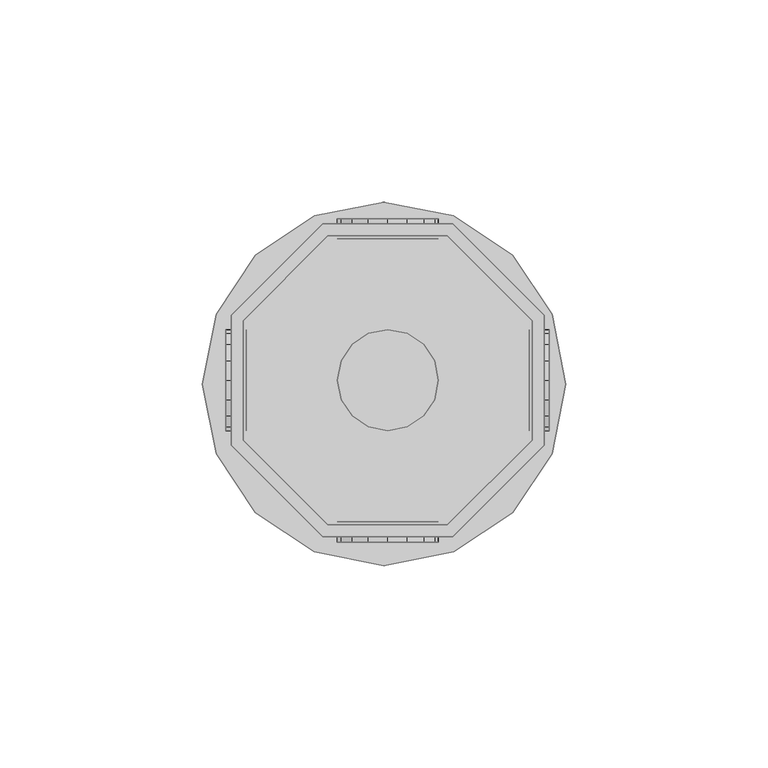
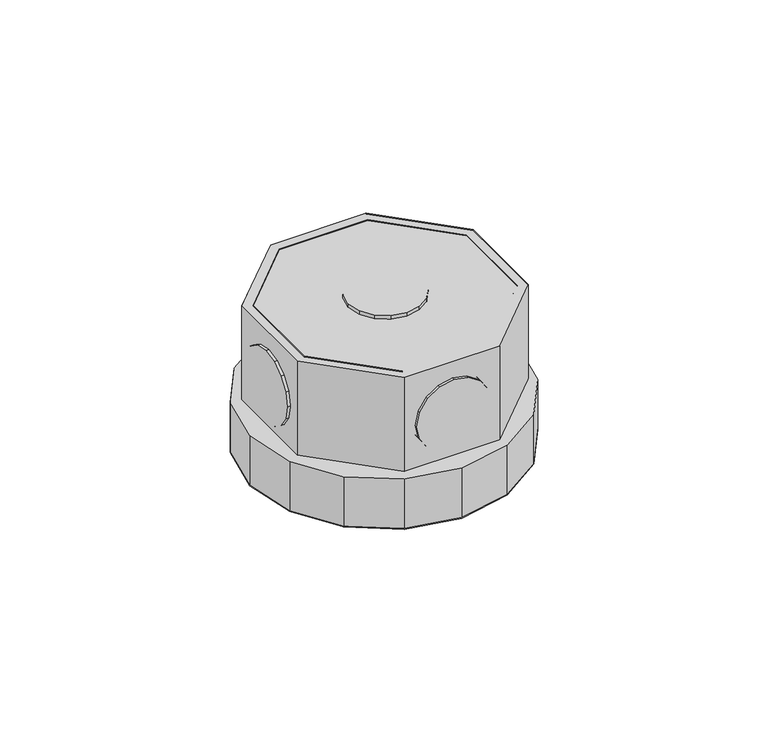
"""IFC4 building model written with IfcOpenShell, lengths in millimetres: light fixture geometry,  213122 :  213122."""

from ifc_helpers import new_model, si_unit, origin, place, context, project, spatial, triangles, source, transform, mapped, element, save


def light_fixture_f5dd555e(model_context):
    return source(origin(), model_context, "Body", "Tessellation", [
        triangles([(2380.9000214, 10419.6000458, 2924.5999741), (2380.9000214, 10449.2005646, 2975.400071), (2380.9000214, 10449.2005646, 2924.5999741), (2380.9000214, 10419.6000458, 2975.400071), (2306.4000629, 10418.400119, 2924.5999741), (2306.4000629, 10450.5004852, 2975.400071), (2306.4000629, 10450.5004852, 2924.5999741), (2306.4000629, 10418.400119, 2975.400071), (2359.899995, 10470.2004456, 2975.400071), (2359.899995, 10470.2004456, 2924.5999741), (2329.0999855, 10395.7003418, 2924.5999741), (2329.0999855, 10395.7003418, 2975.400071), (2330.3000576, 10470.2004456, 2975.400071), (2330.3000576, 10470.2004456, 2924.5999741), (2361.200061, 10395.7003418, 2924.5999741), (2361.200061, 10395.7003418, 2975.400071), (2309.4000252, 10449.2005646, 2975.400071), (2309.4000252, 10449.2005646, 2924.5999741), (2383.8999836, 10418.400119, 2924.5999741), (2383.8999836, 10418.400119, 2975.400071), (2309.4000252, 10419.6000458, 2924.5999741), (2309.4000252, 10419.6000458, 2975.400071), (2383.8999836, 10450.5004852, 2975.400071), (2383.8999836, 10450.5004852, 2924.5999741), (2330.3000576, 10398.7001587, 2924.5999741), (2330.3000576, 10398.7001587, 2975.400071), (2361.200061, 10473.2002625, 2975.400071), (2361.200061, 10473.2002625, 2924.5999741), (2329.0999855, 10473.2002625, 2975.400071), (2359.899995, 10398.7001587, 2975.400071), (2359.899995, 10398.7001587, 2924.5999741), (2329.0999855, 10473.2002625, 2924.5999741), (2330.3000576, 10470.2004456, 2972.3999634), (2309.4000252, 10449.2005646, 2972.3999634), (2309.4000252, 10419.6000458, 2972.3999634), (2330.3000576, 10398.7001587, 2972.3999634), (2359.899995, 10398.7001587, 2972.3999634), (2380.9000214, 10419.6000458, 2972.3999634), (2380.9000214, 10449.2005646, 2972.3999634), (2359.899995, 10470.2004456, 2972.3999634), (2361.200061, 10473.2002625, 2942.4000504), (2383.8999836, 10450.5004852, 2942.4000504), (2383.8999836, 10418.400119, 2942.4000504), (2361.200061, 10395.7003418, 2942.4000504), (2329.0999855, 10395.7003418, 2942.4000504), (2306.4000629, 10418.400119, 2942.4000504), (2306.4000629, 10450.5004852, 2942.4000504), (2329.0999855, 10473.2002625, 2942.4000504), (2302.6999981, 10450.8004669, 2942.4000504), (2326.9999683, 10475.1001465, 2942.4000504), (2312.3999874, 10465.3995758, 2942.4000504), (2344.1999359, 10478.499939, 2942.4000504), (2361.5000427, 10475.1001465, 2942.4000504), (2376.1000237, 10465.3995758, 2942.4000504), (2385.800013, 10450.8004669, 2942.4000504), (2389.1999508, 10433.5003601, 2942.4000504), (2385.800013, 10416.3002472, 2942.4000504), (2361.5000427, 10392.0005676, 2942.4000504), (2376.1000237, 10401.6999756, 2942.4000504), (2299.2000664, 10433.5003601, 2942.4000504), (2302.6999981, 10416.3002472, 2942.4000504), (2312.3999874, 10401.6999756, 2942.4000504), (2326.9999683, 10392.0005676, 2942.4000504), (2344.1999359, 10388.4996185, 2942.4000504), (2326.9999683, 10475.1001465, 2924.5999741), (2302.6999981, 10450.8004669, 2924.5999741), (2312.3999874, 10465.3995758, 2924.5999741), (2344.1999359, 10478.499939, 2924.5999741), (2361.5000427, 10475.1001465, 2924.5999741), (2376.1000237, 10465.3995758, 2924.5999741), (2385.800013, 10450.8004669, 2924.5999741), (2389.1999508, 10433.5003601, 2924.5999741), (2385.800013, 10416.3002472, 2924.5999741), (2361.5000427, 10392.0005676, 2924.5999741), (2376.1000237, 10401.6999756, 2924.5999741), (2299.2000664, 10433.5003601, 2924.5999741), (2302.6999981, 10416.3002472, 2924.5999741), (2312.3999874, 10401.6999756, 2924.5999741), (2326.9999683, 10392.0005676, 2924.5999741), (2344.1999359, 10388.4996185, 2924.5999741), (2385.1000557, 10445.9995972, 2952.6000092), (2385.1000557, 10439.2000122, 2945.9001274), (2385.1000557, 10443.299762, 2948.5999626), (2385.1000557, 10446.8995422, 2957.4000069), (2385.1000557, 10434.4003052, 2944.8998978), (2385.1000557, 10445.9995972, 2962.2000046), (2385.1000557, 10429.5994354, 2945.9001274), (2385.1000557, 10443.299762, 2966.2000511), (2385.1000557, 10425.5996796, 2948.5999626), (2385.1000557, 10439.2000122, 2968.8998863), (2385.1000557, 10422.8998444, 2952.6000092), (2385.1000557, 10434.4003052, 2969.900116), (2385.1000557, 10421.8999054, 2957.4000069), (2385.1000557, 10429.5994354, 2968.8998863), (2385.1000557, 10422.8998444, 2962.2000046), (2385.1000557, 10425.5996796, 2966.2000511), (2380.1000702, 10439.2000122, 2945.9001274), (2380.1000702, 10445.9995972, 2952.6000092), (2380.1000702, 10443.299762, 2948.5999626), (2380.1000702, 10434.4003052, 2944.8998978), (2380.1000702, 10446.8995422, 2957.4000069), (2380.1000702, 10429.5994354, 2945.9001274), (2380.1000702, 10445.9995972, 2962.2000046), (2380.1000702, 10425.5996796, 2948.5999626), (2380.1000702, 10443.299762, 2966.2000511), (2380.1000702, 10439.2000122, 2968.8998863), (2380.1000702, 10422.8998444, 2952.6000092), (2380.1000702, 10434.4003052, 2969.900116), (2380.1000702, 10421.8999054, 2957.4000069), (2380.1000702, 10429.5994354, 2968.8998863), (2380.1000702, 10422.8998444, 2962.2000046), (2380.1000702, 10425.5996796, 2966.2000511), (2310.0999825, 10445.9995972, 2952.6000092), (2310.0999825, 10439.2000122, 2945.9001274), (2310.0999825, 10443.299762, 2948.5999626), (2310.0999825, 10446.8995422, 2957.4000069), (2310.0999825, 10434.4003052, 2944.8998978), (2310.0999825, 10445.9995972, 2962.2000046), (2310.0999825, 10429.5994354, 2945.9001274), (2310.0999825, 10443.299762, 2966.2000511), (2310.0999825, 10425.5996796, 2948.5999626), (2310.0999825, 10439.2000122, 2968.8998863), (2310.0999825, 10422.8998444, 2952.6000092), (2310.0999825, 10434.4003052, 2969.900116), (2310.0999825, 10421.8999054, 2957.4000069), (2310.0999825, 10429.5994354, 2968.8998863), (2310.0999825, 10422.8998444, 2962.2000046), (2310.0999825, 10425.5996796, 2966.2000511), (2305.0999969, 10439.2000122, 2945.9001274), (2305.0999969, 10445.9995972, 2952.6000092), (2305.0999969, 10443.299762, 2948.5999626), (2305.0999969, 10434.4003052, 2944.8998978), (2305.0999969, 10446.8995422, 2957.4000069), (2305.0999969, 10429.5994354, 2945.9001274), (2305.0999969, 10445.9995972, 2962.2000046), (2305.0999969, 10425.5996796, 2948.5999626), (2305.0999969, 10443.299762, 2966.2000511), (2305.0999969, 10439.2000122, 2968.8998863), (2305.0999969, 10422.8998444, 2952.6000092), (2305.0999969, 10434.4003052, 2969.900116), (2305.0999969, 10421.8999054, 2957.4000069), (2305.0999969, 10429.5994354, 2968.8998863), (2305.0999969, 10422.8998444, 2962.2000046), (2305.0999969, 10425.5996796, 2966.2000511), (2340.3000286, 10469.4004944, 2945.9001274), (2333.6000015, 10469.4004944, 2952.6000092), (2336.2999821, 10469.4004944, 2948.5999626), (2345.1000263, 10469.4004944, 2944.8998978), (2332.6000626, 10469.4004944, 2957.4000069), (2349.900024, 10469.4004944, 2945.9001274), (2333.6000015, 10469.4004944, 2962.2000046), (2354.0000645, 10469.4004944, 2948.5999626), (2336.2999821, 10469.4004944, 2966.2000511), (2340.3000286, 10469.4004944, 2968.8998863), (2356.700045, 10469.4004944, 2952.6000092), (2345.1000263, 10469.4004944, 2969.900116), (2357.5999901, 10469.4004944, 2957.4000069), (2349.900024, 10469.4004944, 2968.8998863), (2356.700045, 10469.4004944, 2962.2000046), (2354.0000645, 10469.4004944, 2966.2000511), (2333.6000015, 10474.4001892, 2952.6000092), (2340.3000286, 10474.4001892, 2945.9001274), (2336.2999821, 10474.4001892, 2948.5999626), (2332.6000626, 10474.4001892, 2957.4000069), (2345.1000263, 10474.4001892, 2944.8998978), (2333.6000015, 10474.4001892, 2962.2000046), (2349.900024, 10474.4001892, 2945.9001274), (2336.2999821, 10474.4001892, 2966.2000511), (2354.0000645, 10474.4001892, 2948.5999626), (2340.3000286, 10474.4001892, 2968.8998863), (2356.700045, 10474.4001892, 2952.6000092), (2345.1000263, 10474.4001892, 2969.900116), (2357.5999901, 10474.4001892, 2957.4000069), (2349.900024, 10474.4001892, 2968.8998863), (2356.700045, 10474.4001892, 2962.2000046), (2354.0000645, 10474.4001892, 2966.2000511), (2340.3000286, 10394.4004211, 2945.9001274), (2333.6000015, 10394.4004211, 2952.6000092), (2336.2999821, 10394.4004211, 2948.5999626), (2345.1000263, 10394.4004211, 2944.8998978), (2332.6000626, 10394.4004211, 2957.4000069), (2349.900024, 10394.4004211, 2945.9001274), (2333.6000015, 10394.4004211, 2962.2000046), (2354.0000645, 10394.4004211, 2948.5999626), (2336.2999821, 10394.4004211, 2966.2000511), (2340.3000286, 10394.4004211, 2968.8998863), (2356.700045, 10394.4004211, 2952.6000092), (2345.1000263, 10394.4004211, 2969.900116), (2357.5999901, 10394.4004211, 2957.4000069), (2349.900024, 10394.4004211, 2968.8998863), (2356.700045, 10394.4004211, 2962.2000046), (2354.0000645, 10394.4004211, 2966.2000511), (2333.6000015, 10399.400116, 2952.6000092), (2340.3000286, 10399.400116, 2945.9001274), (2336.2999821, 10399.400116, 2948.5999626), (2332.6000626, 10399.400116, 2957.4000069), (2345.1000263, 10399.400116, 2944.8998978), (2333.6000015, 10399.400116, 2962.2000046), (2349.900024, 10399.400116, 2945.9001274), (2336.2999821, 10399.400116, 2966.2000511), (2354.0000645, 10399.400116, 2948.5999626), (2340.3000286, 10399.400116, 2968.8998863), (2356.700045, 10399.400116, 2952.6000092), (2345.1000263, 10399.400116, 2969.900116), (2357.5999901, 10399.400116, 2957.4000069), (2349.900024, 10399.400116, 2968.8998863), (2356.700045, 10399.400116, 2962.2000046), (2354.0000645, 10399.400116, 2966.2000511), (2333.6000015, 10439.2000122, 2976.9999733), (2340.3000286, 10445.9995972, 2976.9999733), (2336.2999821, 10443.299762, 2976.9999733), (2345.1000263, 10446.8995422, 2976.9999733), (2332.6000626, 10434.4003052, 2976.9999733), (2349.900024, 10445.9995972, 2976.9999733), (2333.6000015, 10429.5994354, 2976.9999733), (2354.0000645, 10443.299762, 2976.9999733), (2336.2999821, 10425.5996796, 2976.9999733), (2356.700045, 10439.2000122, 2976.9999733), (2340.3000286, 10422.8998444, 2976.9999733), (2357.5999901, 10434.4003052, 2976.9999733), (2345.1000263, 10421.8999054, 2976.9999733), (2356.700045, 10429.5994354, 2976.9999733), (2349.900024, 10422.8998444, 2976.9999733), (2354.0000645, 10425.5996796, 2976.9999733), (2340.3000286, 10445.9995972, 2971.9999878), (2333.6000015, 10439.2000122, 2971.9999878), (2336.2999821, 10443.299762, 2971.9999878), (2345.1000263, 10446.8995422, 2971.9999878), (2332.6000626, 10434.4003052, 2971.9999878), (2349.900024, 10445.9995972, 2971.9999878), (2333.6000015, 10429.5994354, 2971.9999878), (2354.0000645, 10443.299762, 2971.9999878), (2336.2999821, 10425.5996796, 2971.9999878), (2356.700045, 10439.2000122, 2971.9999878), (2340.3000286, 10422.8998444, 2971.9999878), (2357.5999901, 10434.4003052, 2971.9999878), (2345.1000263, 10421.8999054, 2971.9999878), (2356.700045, 10429.5994354, 2971.9999878), (2349.900024, 10422.8998444, 2971.9999878), (2354.0000645, 10425.5996796, 2971.9999878)], [[1, 2, 3], [2, 1, 4], [5, 6, 7], [6, 5, 8], [3, 9, 10], [9, 3, 2], [11, 8, 5], [8, 11, 12], [10, 13, 14], [13, 10, 9], [15, 12, 11], [12, 15, 16], [14, 17, 18], [17, 14, 13], [19, 16, 15], [16, 19, 20], [17, 21, 18], [21, 17, 22], [23, 19, 24], [19, 23, 20], [22, 25, 21], [25, 22, 26], [27, 24, 28], [24, 27, 23], [6, 13, 29], [29, 13, 27], [27, 13, 9], [27, 9, 23], [23, 9, 2], [23, 2, 4], [23, 4, 20], [20, 4, 30], [8, 17, 6], [6, 17, 13], [17, 8, 22], [12, 22, 8], [22, 12, 26], [30, 26, 12], [16, 30, 12], [20, 30, 16], [30, 1, 31], [1, 30, 4], [6, 32, 7], [32, 6, 29], [32, 14, 7], [28, 14, 32], [14, 28, 10], [24, 10, 28], [10, 24, 3], [1, 3, 24], [19, 1, 24], [31, 1, 19], [7, 18, 5], [14, 18, 7], [5, 18, 21], [5, 21, 11], [11, 21, 25], [11, 25, 31], [11, 31, 15], [15, 31, 19], [26, 31, 25], [31, 26, 30], [29, 28, 32], [28, 29, 27], [17, 33, 34], [33, 17, 13], [35, 17, 34], [17, 35, 22], [36, 22, 35], [22, 36, 26], [37, 26, 36], [26, 37, 30], [38, 30, 37], [30, 38, 4], [2, 38, 39], [38, 2, 4], [17, 9, 13], [9, 17, 22], [9, 22, 2], [2, 22, 26], [2, 26, 4], [4, 26, 30], [13, 40, 33], [40, 13, 9], [40, 34, 33], [35, 34, 40], [35, 40, 39], [35, 39, 36], [36, 39, 38], [36, 38, 37], [9, 39, 40], [39, 9, 2], [24, 41, 28], [41, 24, 42], [19, 42, 24], [42, 19, 43], [44, 19, 15], [19, 44, 43], [45, 15, 11], [15, 45, 44], [46, 11, 5], [11, 46, 45], [47, 5, 7], [5, 47, 46], [32, 47, 7], [47, 32, 48], [28, 48, 32], [48, 28, 41], [49, 50, 51], [48, 50, 49], [50, 48, 52], [41, 52, 48], [52, 41, 53], [53, 41, 54], [42, 54, 41], [54, 42, 55], [55, 42, 43], [55, 43, 56], [56, 43, 57], [57, 43, 44], [57, 44, 58], [57, 58, 59], [47, 49, 60], [49, 47, 48], [47, 60, 46], [61, 46, 60], [46, 61, 62], [46, 62, 45], [45, 62, 63], [44, 45, 63], [44, 63, 64], [44, 64, 58], [65, 66, 67], [66, 65, 32], [68, 32, 65], [32, 68, 28], [28, 68, 69], [70, 28, 69], [28, 70, 24], [71, 24, 70], [19, 24, 71], [19, 71, 72], [73, 19, 72], [19, 73, 15], [74, 15, 73], [74, 73, 75], [76, 66, 7], [32, 7, 66], [5, 76, 7], [76, 5, 77], [77, 5, 78], [11, 78, 5], [78, 11, 79], [79, 11, 15], [79, 15, 80], [80, 15, 74], [57, 75, 73], [75, 57, 59], [56, 73, 72], [73, 56, 57], [55, 72, 71], [72, 55, 56], [54, 71, 70], [71, 54, 55], [53, 70, 69], [70, 53, 54], [52, 69, 68], [69, 52, 53], [50, 68, 65], [68, 50, 52], [51, 65, 67], [65, 51, 50], [66, 51, 67], [51, 66, 49], [76, 49, 66], [49, 76, 60], [77, 60, 76], [60, 77, 61], [78, 61, 77], [61, 78, 62], [79, 62, 78], [62, 79, 63], [80, 63, 79], [63, 80, 64], [75, 58, 74], [58, 75, 59], [74, 64, 80], [64, 74, 58], [81, 82, 83], [82, 81, 84], [85, 82, 84], [85, 84, 86], [87, 85, 86], [87, 86, 88], [87, 88, 89], [89, 88, 90], [89, 90, 91], [91, 90, 92], [91, 92, 93], [93, 92, 94], [93, 94, 95], [95, 94, 96], [97, 98, 99], [98, 97, 100], [101, 98, 100], [101, 100, 102], [103, 101, 102], [103, 102, 104], [103, 104, 105], [105, 104, 106], [106, 104, 107], [106, 107, 108], [108, 107, 109], [108, 109, 110], [110, 109, 111], [110, 111, 112], [87, 104, 102], [104, 87, 89], [85, 102, 100], [102, 85, 87], [82, 100, 97], [100, 82, 85], [83, 97, 99], [97, 83, 82], [98, 83, 99], [83, 98, 81], [101, 81, 98], [81, 101, 84], [103, 84, 101], [84, 103, 86], [105, 86, 103], [86, 105, 88], [106, 88, 105], [88, 106, 90], [108, 90, 106], [90, 108, 92], [110, 92, 108], [92, 110, 94], [112, 94, 110], [94, 112, 96], [95, 112, 111], [112, 95, 96], [93, 111, 109], [111, 93, 95], [89, 107, 104], [107, 89, 91], [91, 109, 107], [109, 91, 93], [113, 114, 115], [114, 113, 116], [117, 114, 116], [117, 116, 118], [119, 117, 118], [119, 118, 120], [119, 120, 121], [121, 120, 122], [121, 122, 123], [123, 122, 124], [123, 124, 125], [125, 124, 126], [125, 126, 127], [127, 126, 128], [129, 130, 131], [130, 129, 132], [133, 130, 132], [133, 132, 134], [135, 133, 134], [135, 134, 136], [135, 136, 137], [137, 136, 138], [138, 136, 139], [138, 139, 140], [140, 139, 141], [140, 141, 142], [142, 141, 143], [142, 143, 144], [119, 136, 134], [136, 119, 121], [117, 134, 132], [134, 117, 119], [114, 132, 129], [132, 114, 117], [115, 129, 131], [129, 115, 114], [130, 115, 131], [115, 130, 113], [133, 113, 130], [113, 133, 116], [135, 116, 133], [116, 135, 118], [137, 118, 135], [118, 137, 120], [138, 120, 137], [120, 138, 122], [140, 122, 138], [122, 140, 124], [142, 124, 140], [124, 142, 126], [144, 126, 142], [126, 144, 128], [127, 144, 143], [144, 127, 128], [125, 143, 141], [143, 125, 127], [121, 139, 136], [139, 121, 123], [123, 141, 139], [141, 123, 125], [145, 146, 147], [146, 145, 148], [149, 146, 148], [149, 148, 150], [151, 149, 150], [151, 150, 152], [151, 152, 153], [153, 152, 154], [154, 152, 155], [154, 155, 156], [156, 155, 157], [156, 157, 158], [158, 157, 159], [158, 159, 160], [161, 162, 163], [162, 161, 164], [165, 162, 164], [165, 164, 166], [167, 165, 166], [167, 166, 168], [169, 167, 168], [169, 168, 170], [169, 170, 171], [171, 170, 172], [171, 172, 173], [173, 172, 174], [173, 174, 175], [175, 174, 176], [158, 176, 174], [176, 158, 160], [156, 174, 172], [174, 156, 158], [154, 172, 170], [172, 154, 156], [153, 170, 168], [170, 153, 154], [151, 168, 166], [168, 151, 153], [149, 166, 164], [166, 149, 151], [146, 164, 161], [164, 146, 149], [147, 161, 163], [161, 147, 146], [162, 147, 163], [147, 162, 145], [165, 145, 162], [145, 165, 148], [167, 148, 165], [148, 167, 150], [169, 150, 167], [150, 169, 152], [171, 152, 169], [152, 171, 155], [173, 155, 171], [155, 173, 157], [176, 159, 175], [159, 176, 160], [175, 157, 173], [157, 175, 159], [177, 178, 179], [178, 177, 180], [181, 178, 180], [181, 180, 182], [183, 181, 182], [183, 182, 184], [183, 184, 185], [185, 184, 186], [186, 184, 187], [186, 187, 188], [188, 187, 189], [188, 189, 190], [190, 189, 191], [190, 191, 192], [193, 194, 195], [194, 193, 196], [197, 194, 196], [197, 196, 198], [199, 197, 198], [199, 198, 200], [201, 199, 200], [201, 200, 202], [201, 202, 203], [203, 202, 204], [203, 204, 205], [205, 204, 206], [205, 206, 207], [207, 206, 208], [190, 208, 206], [208, 190, 192], [188, 206, 204], [206, 188, 190], [186, 204, 202], [204, 186, 188], [185, 202, 200], [202, 185, 186], [183, 200, 198], [200, 183, 185], [181, 198, 196], [198, 181, 183], [178, 196, 193], [196, 178, 181], [179, 193, 195], [193, 179, 178], [194, 179, 195], [179, 194, 177], [197, 177, 194], [177, 197, 180], [199, 180, 197], [180, 199, 182], [201, 182, 199], [182, 201, 184], [203, 184, 201], [184, 203, 187], [205, 187, 203], [187, 205, 189], [208, 191, 207], [191, 208, 192], [207, 189, 205], [189, 207, 191], [209, 210, 211], [212, 210, 209], [212, 209, 213], [214, 212, 213], [214, 213, 215], [216, 214, 215], [216, 215, 217], [216, 217, 218], [218, 217, 219], [218, 219, 220], [220, 219, 221], [220, 221, 222], [222, 221, 223], [222, 223, 224], [225, 226, 227], [226, 225, 228], [229, 226, 228], [229, 228, 230], [231, 229, 230], [231, 230, 232], [231, 232, 233], [233, 232, 234], [233, 234, 235], [235, 234, 236], [235, 236, 237], [237, 236, 238], [237, 238, 239], [239, 238, 240], [222, 240, 238], [240, 222, 224], [220, 238, 236], [238, 220, 222], [218, 236, 234], [236, 218, 220], [216, 234, 232], [234, 216, 218], [214, 232, 230], [232, 214, 216], [212, 230, 228], [230, 212, 214], [210, 228, 225], [228, 210, 212], [211, 225, 227], [225, 211, 210], [226, 211, 227], [211, 226, 209], [229, 209, 226], [209, 229, 213], [231, 213, 229], [213, 231, 215], [233, 215, 231], [215, 233, 217], [235, 217, 233], [217, 235, 219], [237, 219, 235], [219, 237, 221], [240, 223, 239], [223, 240, 224], [239, 221, 237], [221, 239, 223]], closed=False),
    ])


if __name__ == "__main__":
    model = new_model("IFC4")
    model_context = context("Model", 3, world=origin())
    ifc_project = project(units=[si_unit("LENGTHUNIT", "METRE", prefix="MILLI")], contexts=[model_context])
    site = spatial("IfcSite", under=ifc_project)
    building = spatial("IfcBuilding", under=site)
    placement = place(None, origin())
    light_fixture_shape = light_fixture_f5dd555e(model_context)
    element("IfcLightFixture", 1, ObjectType=" 213122 :  213122", at=placement, inside=building, context=model_context, shape_type="MappedRepresentation", body=[
        mapped(light_fixture_shape, transform((0.0, 0.0, 0.0), x_axis=(1.0, 0.0, 0.0), y_axis=(0.0, 1.0, 0.0), z_axis=(0.0, 0.0, 1.0))),
    ])
    save(model, "model.ifc")
